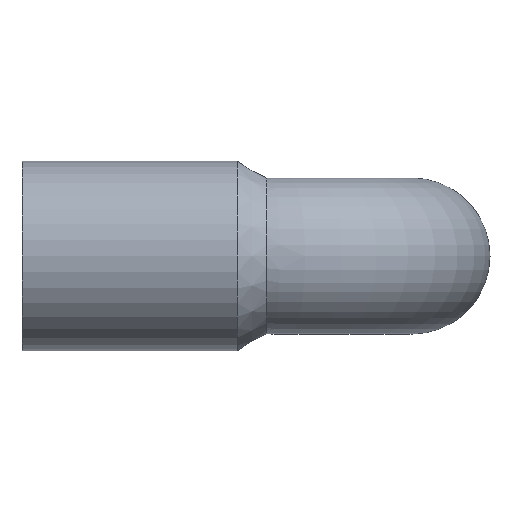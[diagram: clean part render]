
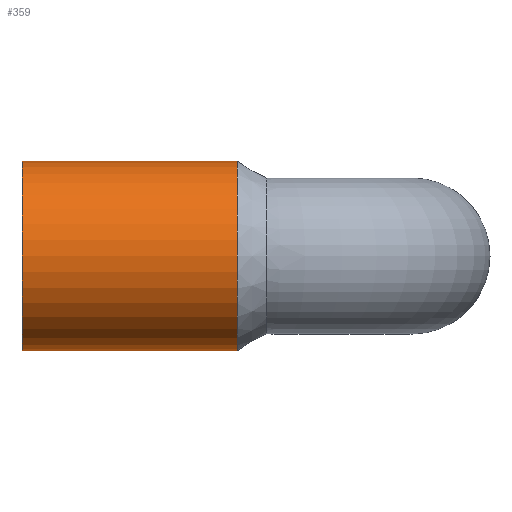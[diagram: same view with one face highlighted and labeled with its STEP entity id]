
A CAD part, front view. The second image highlights one B-rep face of the part: STEP entity #359.
In plain terms, the highlighted cylindrical face has radius 3.65 mm (diameter 7.3 mm), a full revolution.
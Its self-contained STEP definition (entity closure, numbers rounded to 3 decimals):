
#169=CARTESIAN_POINT('',(-9.,-9.65,0.0));
#170=VERTEX_POINT('',#169);
#171=CARTESIAN_POINT('',(-9.,-6.0,0.0));
#172=DIRECTION('',(-1.0,0.0,0.0));
#173=DIRECTION('',(0.0,-1.0,0.0));
#174=AXIS2_PLACEMENT_3D('',#171,#172,#173);
#175=CIRCLE('',#174,3.65);
#176=EDGE_CURVE('',#170,#170,#175,.T.);
#324=CARTESIAN_POINT('',(-0.726,-9.65,0.0));
#325=VERTEX_POINT('',#324);
#326=CARTESIAN_POINT('',(-0.726,-6.,0.0));
#327=DIRECTION('',(-1.0,0.0,0.0));
#328=DIRECTION('',(0.0,-1.0,0.0));
#329=AXIS2_PLACEMENT_3D('',#326,#327,#328);
#330=CIRCLE('',#329,3.65);
#331=EDGE_CURVE('',#325,#325,#330,.T.);
#348=CARTESIAN_POINT('',(-4.863,-6.,0.0));
#349=DIRECTION('',(-1.0,0.,0.0));
#350=DIRECTION('',(0.0,-1.0,0.0));
#351=AXIS2_PLACEMENT_3D('',#348,#349,#350);
#352=CYLINDRICAL_SURFACE('',#351,3.65);
#353=ORIENTED_EDGE('',*,*,#176,.F.);
#354=EDGE_LOOP('',(#353));
#355=FACE_OUTER_BOUND('',#354,.T.);
#356=ORIENTED_EDGE('',*,*,#331,.T.);
#357=EDGE_LOOP('',(#356));
#358=FACE_BOUND('',#357,.T.);
#359=ADVANCED_FACE('',(#355,#358),#352,.T.);
